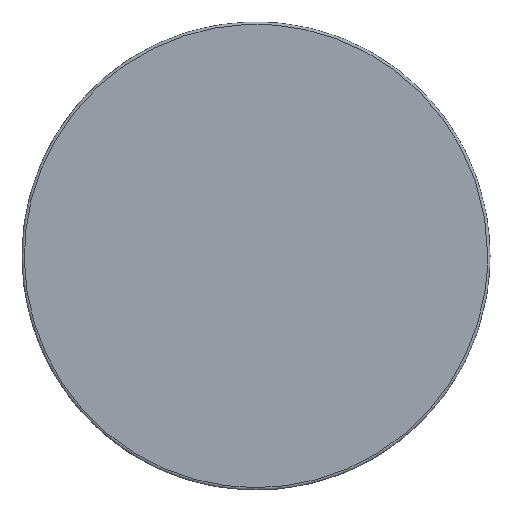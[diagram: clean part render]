
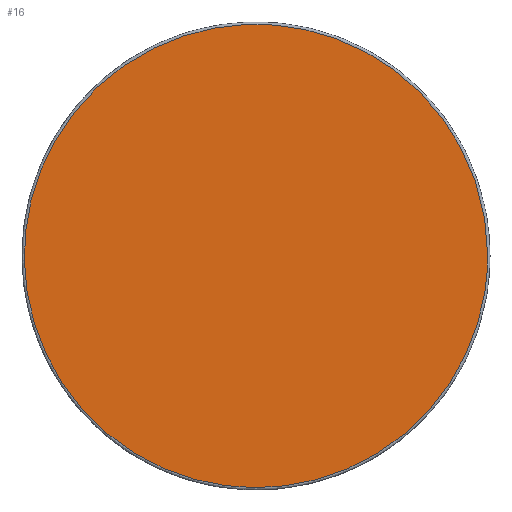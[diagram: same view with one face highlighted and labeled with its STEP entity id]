
A CAD part, top view. The second image highlights one B-rep face of the part: STEP entity #16.
In plain terms, the highlighted planar face has unit normal (0, 0, 1).
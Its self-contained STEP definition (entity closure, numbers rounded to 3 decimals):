
#16=ADVANCED_FACE('',(#21),#62,.T.);
#21=FACE_OUTER_BOUND('',#26,.T.);
#26=EDGE_LOOP('',(#34));
#34=ORIENTED_EDGE('',*,*,#47,.T.);
#47=EDGE_CURVE('',#60,#60,#54,.T.);
#54=(
BOUNDED_CURVE()
B_SPLINE_CURVE(2,(#195,#196,#197,#198,#199,#200,#201,#202,#203),
 .UNSPECIFIED.,.T.,.F.)
B_SPLINE_CURVE_WITH_KNOTS((3,2,2,2,3),(-2376.,-1782.,
-1188.,-594.,0.),.UNSPECIFIED.)
CURVE()
GEOMETRIC_REPRESENTATION_ITEM()
RATIONAL_B_SPLINE_CURVE((1.,0.707,1.,0.707,1.,0.707,
1.,0.707,1.))
REPRESENTATION_ITEM('')
);
#60=VERTEX_POINT('',#173);
#62=PLANE('',#87);
#87=AXIS2_PLACEMENT_3D('',#115,#92,$);
#92=DIRECTION('',(0.,0.,1.));
#115=CARTESIAN_POINT('',(-356.412,-356.412,27.));
#173=CARTESIAN_POINT('',(297.,0.,27.));
#195=CARTESIAN_POINT('',(297.,0.,27.));
#196=CARTESIAN_POINT('',(297.,297.,27.));
#197=CARTESIAN_POINT('',(0.,297.,27.));
#198=CARTESIAN_POINT('',(-297.,297.,27.));
#199=CARTESIAN_POINT('',(-297.,0.,27.));
#200=CARTESIAN_POINT('',(-297.,-297.,27.));
#201=CARTESIAN_POINT('',(0.,-297.,27.));
#202=CARTESIAN_POINT('',(297.,-297.,27.));
#203=CARTESIAN_POINT('',(297.,0.,27.));
